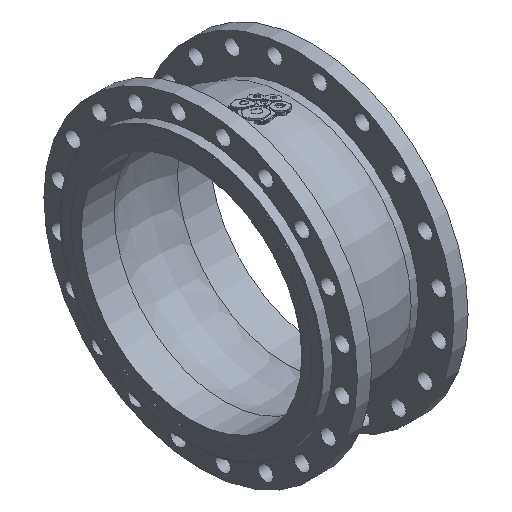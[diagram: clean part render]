
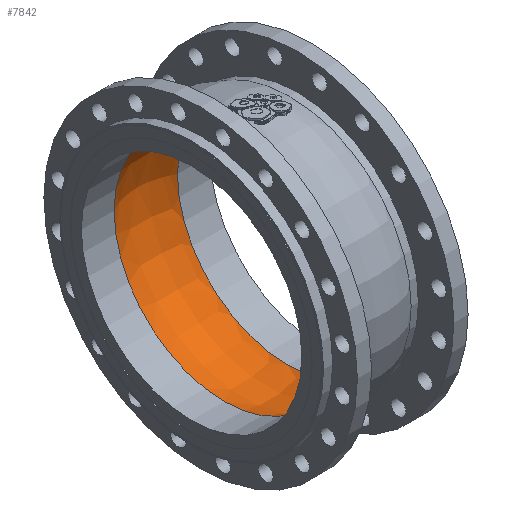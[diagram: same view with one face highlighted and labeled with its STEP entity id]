
A CAD part, isometric view. The second image highlights one B-rep face of the part: STEP entity #7842.
In plain terms, the highlighted toroidal (fillet/blend) face has major radius 112.146 mm and minor radius 130.075 mm.
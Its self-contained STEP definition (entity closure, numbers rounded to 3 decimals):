
#7842=ADVANCED_FACE('',(#14351,#14353),#14355,.F.);
#14351=FACE_BOUND('',#14352,.T.);
#14352=EDGE_LOOP('',(#19722,#19723));
#14353=FACE_BOUND('',#14354,.T.);
#14354=EDGE_LOOP('',(#19724,#19725));
#14355=DEGENERATE_TOROIDAL_SURFACE('',#14356,112.146,130.075,.T.);
#14356=AXIS2_PLACEMENT_3D('',#14357,#14358,#14359);
#14357=CARTESIAN_POINT('',(-1628.924,296.23,0.));
#14358=DIRECTION('',(1.,0.,0.));
#14359=DIRECTION('',(0.,0.,-1.));
#19722=ORIENTED_EDGE('',*,*,#22352,.T.);
#19723=ORIENTED_EDGE('',*,*,#22351,.T.);
#19724=ORIENTED_EDGE('',*,*,#22353,.F.);
#19725=ORIENTED_EDGE('',*,*,#22354,.F.);
#22351=EDGE_CURVE('',#26626,#26627,#26628,.T.);
#22352=EDGE_CURVE('',#26627,#26626,#26629,.T.);
#22353=EDGE_CURVE('',#26630,#26631,#26632,.T.);
#22354=EDGE_CURVE('',#26631,#26630,#26633,.T.);
#26626=VERTEX_POINT('',#38364);
#26627=VERTEX_POINT('',#38365);
#26628=CIRCLE('',#38366,225.);
#26629=CIRCLE('',#38370,225.);
#26630=VERTEX_POINT('',#38374);
#26631=VERTEX_POINT('',#38375);
#26632=CIRCLE('',#38376,225.);
#26633=CIRCLE('',#38380,225.);
#38364=CARTESIAN_POINT('',(-1564.243,71.23,0.));
#38365=CARTESIAN_POINT('',(-1564.243,521.23,0.));
#38366=AXIS2_PLACEMENT_3D('',#38367,#38368,#38369);
#38367=CARTESIAN_POINT('',(-1564.243,296.23,0.));
#38368=DIRECTION('',(1.,0.,0.));
#38369=DIRECTION('',(0.,-1.,0.));
#38370=AXIS2_PLACEMENT_3D('',#38371,#38372,#38373);
#38371=CARTESIAN_POINT('',(-1564.243,296.23,0.));
#38372=DIRECTION('',(1.,0.,0.));
#38373=DIRECTION('',(0.,1.,0.));
#38374=CARTESIAN_POINT('',(-1693.604,71.23,0.));
#38375=CARTESIAN_POINT('',(-1693.604,521.23,0.));
#38376=AXIS2_PLACEMENT_3D('',#38377,#38378,#38379);
#38377=CARTESIAN_POINT('',(-1693.604,296.23,0.));
#38378=DIRECTION('',(1.,0.,0.));
#38379=DIRECTION('',(0.,-1.,0.));
#38380=AXIS2_PLACEMENT_3D('',#38381,#38382,#38383);
#38381=CARTESIAN_POINT('',(-1693.604,296.23,0.));
#38382=DIRECTION('',(1.,0.,0.));
#38383=DIRECTION('',(0.,1.,0.));
